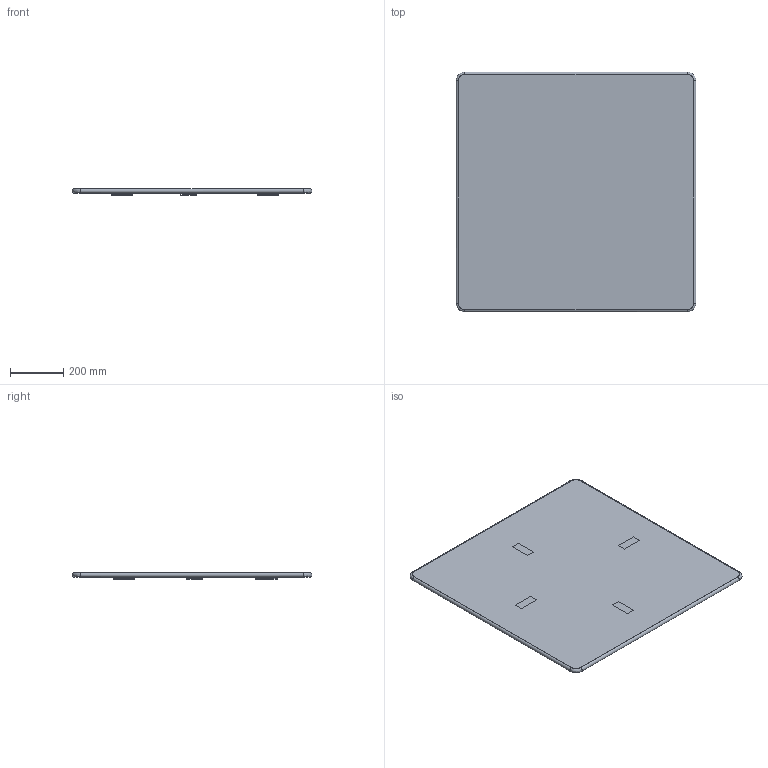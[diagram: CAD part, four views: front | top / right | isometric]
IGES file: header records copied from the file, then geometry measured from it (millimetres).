
Start section: SolidWorks IGES file using NURBS representation for surfaces
Global section: file name: G:\VICCARBE\PRODUCTOS\26-PANELES LAYER\04-MODELADOS (PLANOS)\especiales para 3D\VICCARBE_LayerPanel_900x900d55.IGS; native system: SolidWorks 2009; preprocessor: SolidWorks 2009; author: RUBEN; date: 110906.115936; units: millimetre
Bounding box: 901 x 901 x 25.5 mm (x, y, z)
Surface area: 1914663.7 mm2 (no closed solid volume)
Topology: 0 solids, 0 shells, 65 faces, 436 edges, 436 vertices
Faces by surface type: bspline 65
